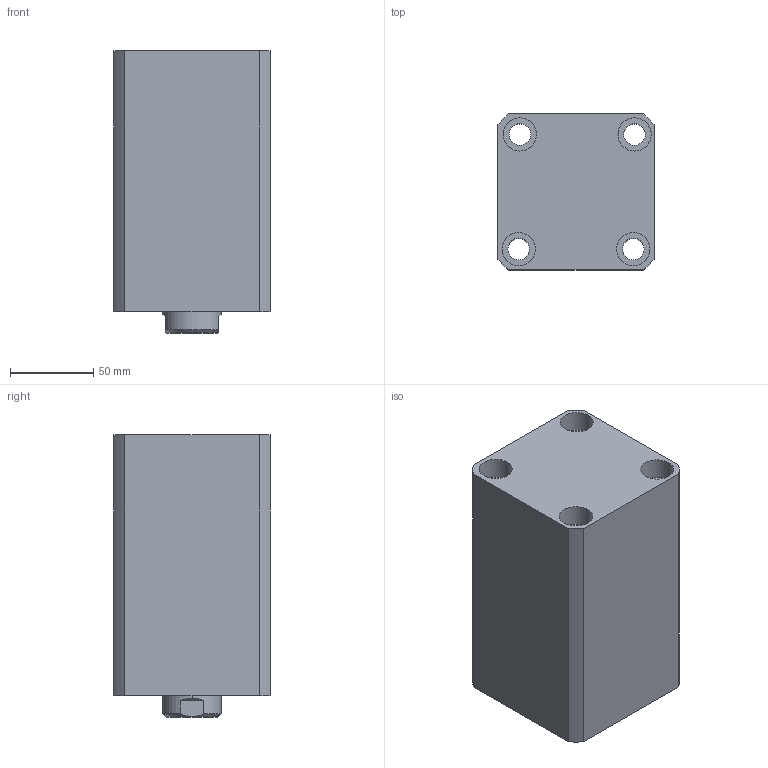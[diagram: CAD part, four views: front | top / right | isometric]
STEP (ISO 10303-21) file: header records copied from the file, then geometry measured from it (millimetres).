
FILE_DESCRIPTION (( 'STEP AP214' ), '1' );
FILE_NAME ('chtb-sdma63x90n_asm.STEP', '2018-05-16T02:45:34', ( 'Windows' ), ( 'Microsoft' ), 'SwSTEP 2.0', 'SolidWorks 2015', '' );
FILE_SCHEMA (( 'AUTOMOTIVE_DESIGN' ));
Length unit declared in the file: millimetre
Products named in the file (4): chtb-sdma63x90n_asm; CHTB-SDMA63X90NBT; CHTB63X90NHSG; CHTB-63QG
Assembly tree (3 placements, depth 2):
  chtb-sdma63x90n_asm
    CHTB-63QG
    CHTB63X90NHSG
    CHTB-SDMA63X90NBT
Bounding box: 94 x 94 x 170 mm (x, y, z)
Volume: 1077433.1 mm3; surface area: 179501.6 mm2
Topology: 3 solids, 3 shells, 165 faces, 472 edges, 321 vertices
Faces by surface type: cylinder 107, plane 31, bspline 12, cone 8, torus 7
Entity records: 17727 total; most frequent: CARTESIAN_POINT 13576, ORIENTED_EDGE 932, DIRECTION 716, EDGE_CURVE 466, VERTEX_POINT 321, AXIS2_PLACEMENT_3D 288, EDGE_LOOP 197, ADVANCED_FACE 165
